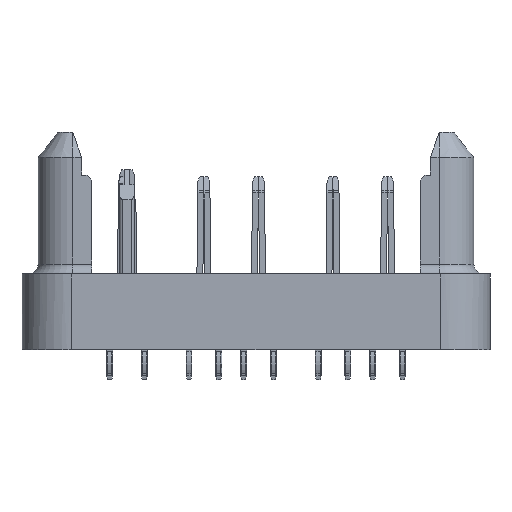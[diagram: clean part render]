
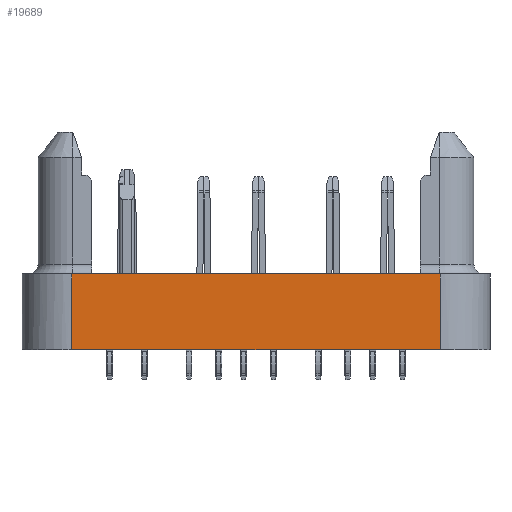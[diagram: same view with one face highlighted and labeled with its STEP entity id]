
A CAD part, front view. The second image highlights one B-rep face of the part: STEP entity #19689.
In plain terms, the highlighted planar face has unit normal (0, -1, -0.011).
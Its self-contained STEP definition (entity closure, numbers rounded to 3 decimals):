
#19689=ADVANCED_FACE('',(#22996),#22085,.T.);
#22085=PLANE('',#56995);
#22996=FACE_OUTER_BOUND('',#25404,.T.);
#25404=EDGE_LOOP('',(#28873,#28874,#28875,#28876));
#28873=ORIENTED_EDGE('',*,*,#44552,.F.);
#28874=ORIENTED_EDGE('',*,*,#44575,.T.);
#28875=ORIENTED_EDGE('',*,*,#44977,.T.);
#28876=ORIENTED_EDGE('',*,*,#44747,.T.);
#40646=VERTEX_POINT('',#76844);
#40647=VERTEX_POINT('',#76845);
#40663=VERTEX_POINT('',#76891);
#40783=VERTEX_POINT('',#77287);
#44552=EDGE_CURVE('',#40646,#40647,#50843,.T.);
#44575=EDGE_CURVE('',#40646,#40663,#50856,.T.);
#44747=EDGE_CURVE('',#40783,#40647,#50990,.T.);
#44977=EDGE_CURVE('',#40663,#40783,#51121,.T.);
#50843=LINE('',#76843,#53847);
#50856=LINE('',#76890,#53860);
#50990=LINE('',#77286,#53994);
#51121=LINE('',#78291,#54156);
#53847=VECTOR('',#62473,1.);
#53860=VECTOR('',#62520,1.);
#53994=VECTOR('',#62814,1.);
#54156=VECTOR('',#63236,1.);
#56995=AXIS2_PLACEMENT_3D('',#78292,#63237,#63238);
#62473=DIRECTION('',(1.,0.,0.));
#62520=DIRECTION('',(0.,0.011,-1.));
#62814=DIRECTION('',(0.,-0.011,1.));
#63236=DIRECTION('',(1.,0.,0.));
#63237=DIRECTION('',(0.,-1.,-0.011));
#63238=DIRECTION('',(0.,0.011,-1.));
#76843=CARTESIAN_POINT('',(0.,22.975,7.63));
#76844=CARTESIAN_POINT('',(-18.57,22.975,7.63));
#76845=CARTESIAN_POINT('',(18.57,22.975,7.63));
#76890=CARTESIAN_POINT('',(-18.57,22.975,7.63));
#76891=CARTESIAN_POINT('',(-18.57,23.06,0.));
#77286=CARTESIAN_POINT('',(18.57,22.975,7.63));
#77287=CARTESIAN_POINT('',(18.57,23.06,0.));
#78291=CARTESIAN_POINT('',(0.,23.06,0.));
#78292=CARTESIAN_POINT('',(-9.43,22.975,7.63));
